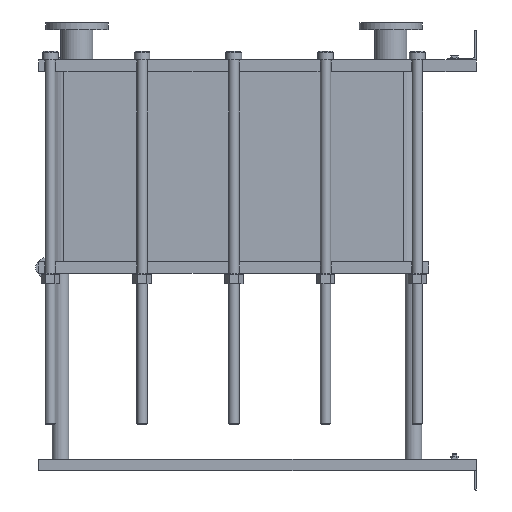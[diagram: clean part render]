
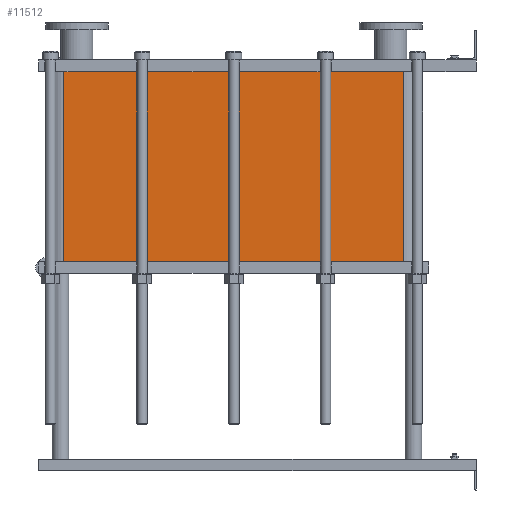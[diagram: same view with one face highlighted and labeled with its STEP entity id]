
A CAD part, left-side view. The second image highlights one B-rep face of the part: STEP entity #11512.
In plain terms, the highlighted planar face has unit normal (-1, 0, 0).
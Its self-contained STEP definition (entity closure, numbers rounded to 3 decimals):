
#1129=LINE('',#23232,#2102);
#1130=LINE('',#23236,#2103);
#1131=LINE('',#23238,#2104);
#1132=LINE('',#23239,#2105);
#2102=VECTOR('',#15887,10.);
#2103=VECTOR('',#15892,10.);
#2104=VECTOR('',#15893,10.);
#2105=VECTOR('',#15894,10.);
#3267=FACE_OUTER_BOUND('',#4093,.T.);
#4093=EDGE_LOOP('',(#10103,#10104,#10105,#10106));
#5642=VERTEX_POINT('',#23229);
#5643=VERTEX_POINT('',#23231);
#5644=VERTEX_POINT('',#23235);
#5645=VERTEX_POINT('',#23237);
#7159=EDGE_CURVE('',#5643,#5642,#1129,.T.);
#7161=EDGE_CURVE('',#5642,#5644,#1130,.T.);
#7162=EDGE_CURVE('',#5645,#5644,#1131,.T.);
#7163=EDGE_CURVE('',#5645,#5643,#1132,.T.);
#10103=ORIENTED_EDGE('',*,*,#7161,.T.);
#10104=ORIENTED_EDGE('',*,*,#7162,.F.);
#10105=ORIENTED_EDGE('',*,*,#7163,.T.);
#10106=ORIENTED_EDGE('',*,*,#7159,.T.);
#10857=PLANE('',#12751);
#11512=ADVANCED_FACE('',(#3267),#10857,.T.);
#12751=AXIS2_PLACEMENT_3D('',#23234,#15890,#15891);
#15887=DIRECTION('',(0.,0.,-1.));
#15890=DIRECTION('center_axis',(-1.,0.,0.));
#15891=DIRECTION('ref_axis',(0.,1.,0.));
#15892=DIRECTION('',(0.,-1.,0.));
#15893=DIRECTION('',(0.,0.,-1.));
#15894=DIRECTION('',(0.,1.,0.));
#23229=CARTESIAN_POINT('',(-200.,1414.,-652.05));
#23231=CARTESIAN_POINT('',(-200.,1414.,0.));
#23232=CARTESIAN_POINT('',(-200.,1414.,0.));
#23234=CARTESIAN_POINT('Origin',(-200.,248.,0.));
#23235=CARTESIAN_POINT('',(-200.,248.,-652.05));
#23236=CARTESIAN_POINT('',(-200.,539.5,-652.05));
#23237=CARTESIAN_POINT('',(-200.,248.,0.));
#23238=CARTESIAN_POINT('',(-200.,248.,0.));
#23239=CARTESIAN_POINT('',(-200.,248.,0.));
